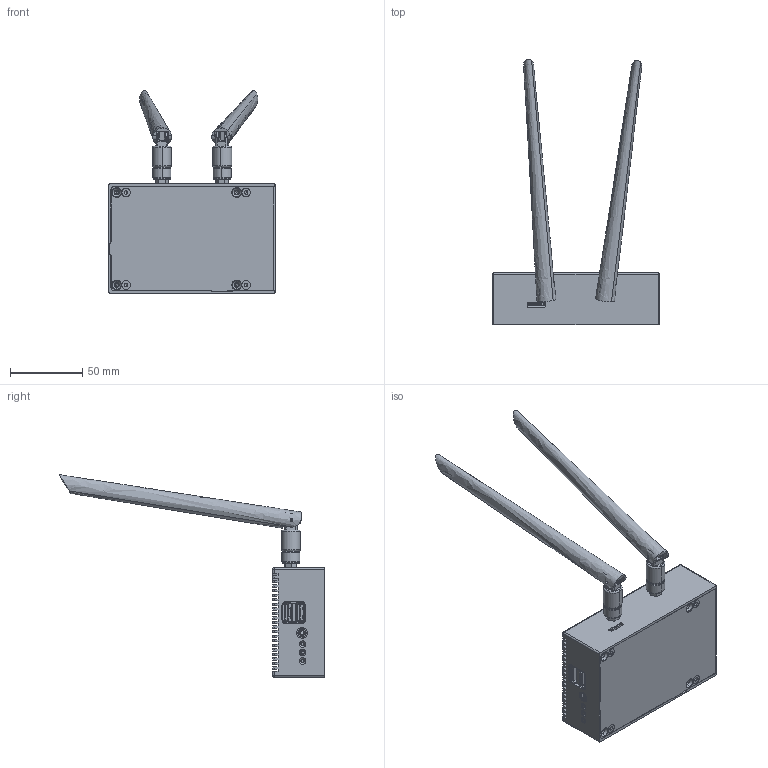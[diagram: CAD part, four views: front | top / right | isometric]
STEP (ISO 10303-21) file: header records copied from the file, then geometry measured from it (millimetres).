
FILE_DESCRIPTION (( 'STEP AP214' ), '1' );
FILE_NAME ('LubanCat 2.STEP', '2022-11-28T02:38:02', ( '' ), ( '' ), 'SwSTEP 2.0', 'SolidWorks 2021', '' );
FILE_SCHEMA (( 'AUTOMOTIVE_DESIGN' ));
Length unit declared in the file: millimetre
Products named in the file (31): RK3568PCB1; usb3x2; 俋褲党蜊; SIMｿｨ1; 聆泂LED; DC-044A-20A錨璃 DC諉諳; fpc24p; SD縐; SIMｿｨmini; 毞盄; User Library-pj-393-8; 2.54邧齬齬渀; fpc30p; 錨璃3^User Library-pj-393-8; 酗毞盄; LubanCat 2; User Library-pj-393-8_PJ-393-8_2; SD縐釱赽; IRM-v838M3 綻俋泂え; 毞盄釱赽; User Library-pj-393-8_PJ-393-8_1; 72r3759_2007435-1; 綻俋敦諳; 复件 HR911105A^RK3568推拉样式装配体修改最小间距小于0.8; 菁脯湮蜊; User Library-pj-393-8_PJ-393-8_4; 毞盄錨璃1; 边三脚侧插侧按按键6mm; 毞盄嘐隅蹟佪; 錨璃4^User Library-pj-393-8; User Library-USB-TYPE-C20
Assembly tree (39 placements, depth 3):
  錨璃3^User Library-pj-393-8
  LubanCat 2
    复件 HR911105A^RK3568推拉样式装配体修改最小间距小于0.8  x2
    72r3759_2007435-1
    User Library-USB-TYPE-C20
    聆泂LED  x2
    usb3x2
    边三脚侧插侧按按键6mm  x3
    User Library-pj-393-8
      User Library-pj-393-8_PJ-393-8_1
      User Library-pj-393-8_PJ-393-8_2  x4
      User Library-pj-393-8_PJ-393-8_4  x3
      錨璃4^User Library-pj-393-8
    IRM-v838M3 綻俋泂え
    SIMｿｨmini
    SD縐釱赽
    SD縐
    SIMｿｨ1
    2.54邧齬齬渀
    俋褲党蜊
    酗毞盄  x2
      毞盄
      毞盄釱赽
      毞盄錨璃1
      毞盄嘐隅蹟佪
    fpc30p
    fpc24p
    DC-044A-20A錨璃 DC諉諳
    菁脯湮蜊
    RK3568PCB1
    綻俋敦諳
Bounding box: 115.45 x 183.63 x 139.99 mm (x, y, z)
Volume: 143524.5 mm3; surface area: 132270.4 mm2
Topology: 56 solids, 136 shells, 6241 faces, 16518 edges, 10593 vertices
Faces by surface type: plane 4298, cylinder 1417, bspline 269, cone 134, torus 86, sphere 37
Entity records: 192039 total; most frequent: CARTESIAN_POINT 45183, ORIENTED_EDGE 27890, DIRECTION 23901, EDGE_CURVE 14045, LINE 10521, VECTOR 10521, VERTEX_POINT 9066, AXIS2_PLACEMENT_3D 6690
